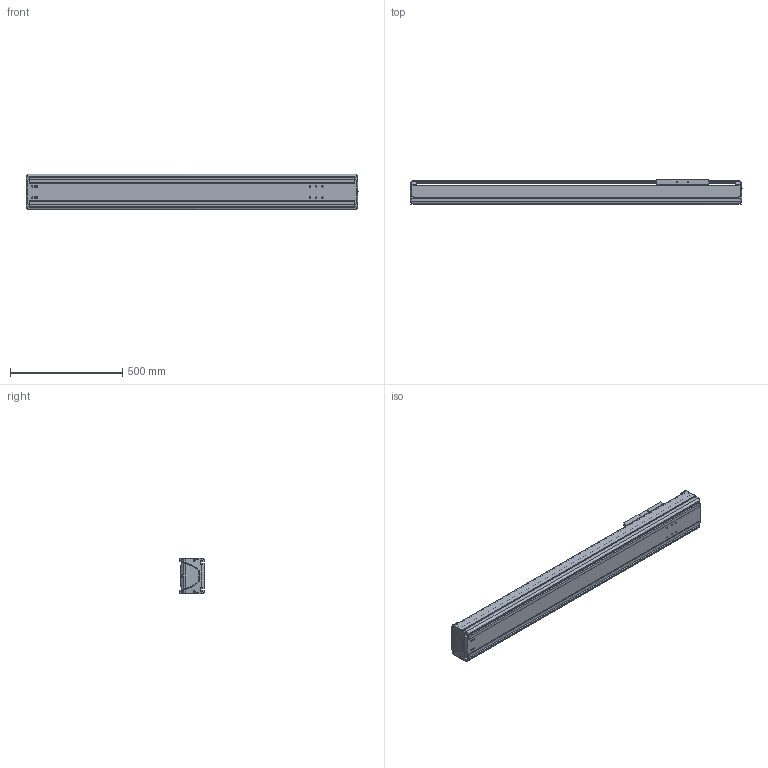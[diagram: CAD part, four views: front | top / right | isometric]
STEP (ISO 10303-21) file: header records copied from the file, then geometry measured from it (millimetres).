
FILE_DESCRIPTION((''),'2;1');
FILE_NAME('BE50G-ST-L_N-A5_IGS_PRT','2017-06-18T',(' '),(''),'PRO/ENGINEER BY PARAMETRIC TECHNOLOGY CORPORATION, 2015030','PRO/ENGINEER BY PARAMETRIC TECHNOLOGY CORPORATION, 2015030','');
FILE_SCHEMA(('CONFIG_CONTROL_DESIGN'));
Length unit declared in the file: millimetre
Products named in the file (1): BE50G-ST-L_N-A5_IGS_PRT
Bounding box: 1479.98 x 110 x 160 mm (x, y, z)
Volume: 6634212.9 mm3; surface area: 2258887.6 mm2
Topology: 2 solids, 95 shells, 1704 faces, 4554 edges, 2919 vertices
Faces by surface type: cylinder 758, plane 633, bspline 102, torus 87, cone 84, sphere 40
Entity records: 58870 total; most frequent: CARTESIAN_POINT 16915, ORIENTED_EDGE 8660, DIRECTION 8560, EDGE_CURVE 4516, AXIS2_PLACEMENT_3D 3206, VERTEX_POINT 2911, VECTOR 2148, LINE 2148
